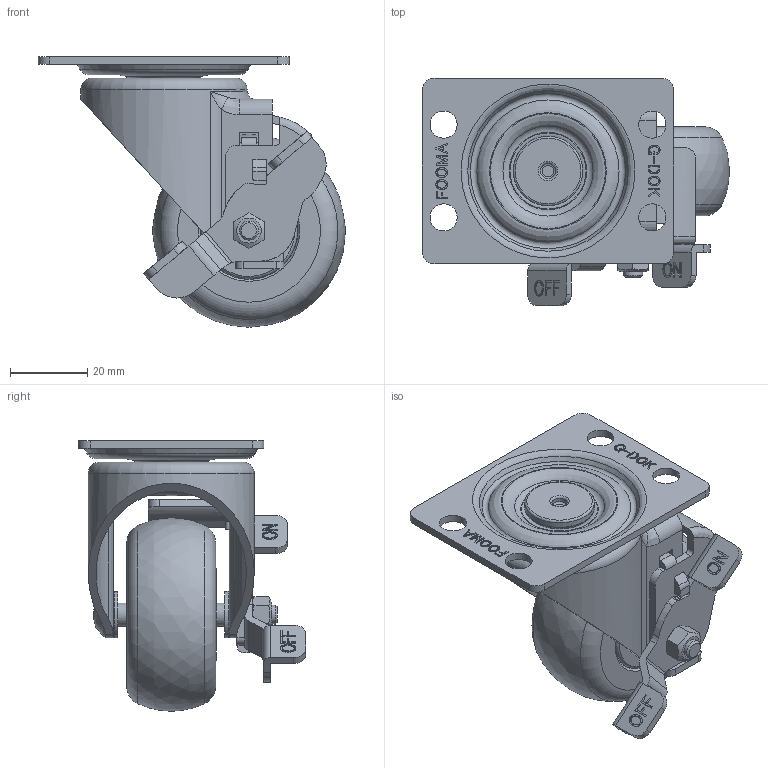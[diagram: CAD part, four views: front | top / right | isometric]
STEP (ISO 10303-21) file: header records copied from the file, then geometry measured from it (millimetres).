
FILE_DESCRIPTION(/* description */ (''),/* implementation_level */ '2;1');
FILE_NAME(/* name */ 'C:\Users\admin\Desktop\JYS\14.제품도면\GL-SERIES\GL-50-BSF-EUS-HP.stp',/* time_stamp */ '2024-01-11T14:34:23+09:00',/* author */ ('admin'),/* organization */ (''),/* preprocessor_version */ 'ST-DEVELOPER v18.1',/* originating_system */ 'Autodesk Inventor 2021',/* authorisation */ '');
FILE_SCHEMA (('AUTOMOTIVE_DESIGN { 1 0 10303 214 3 1 1 }'));
Length unit declared in the file: millimetre
Products named in the file (3): GL-50-BSF-EUS; GL-50-BSF; GDS-50_WHEEL_Sub Assy_Rev01
Assembly tree (2 placements, depth 2):
  GL-50-BSF-EUS
    GL-50-BSF
    GDS-50_WHEEL_Sub Assy_Rev01
Bounding box: 79.5 x 58.77 x 70 mm (x, y, z)
Volume: 60731.8 mm3; surface area: 34072.1 mm2
Topology: 3 solids, 4 shells, 616 faces, 1592 edges, 1040 vertices
Faces by surface type: plane 296, bspline 150, cylinder 96, torus 51, cone 23
Full cylindrical faces by diameter (mm): 4 x1, 5 x1, 6 x1, 6.2 x1, 7 x5, 11 x1, 11.1 x1, 11.5 x1, 18 x1, 21.004 x1, 25 x2, 33.804 x1, 39 x1, 43 x1
Entity records: 20507 total; most frequent: CARTESIAN_POINT 6002, ORIENTED_EDGE 3174, DIRECTION 2589, EDGE_CURVE 1587, VERTEX_POINT 1040, LINE 881, VECTOR 881, AXIS2_PLACEMENT_3D 854
